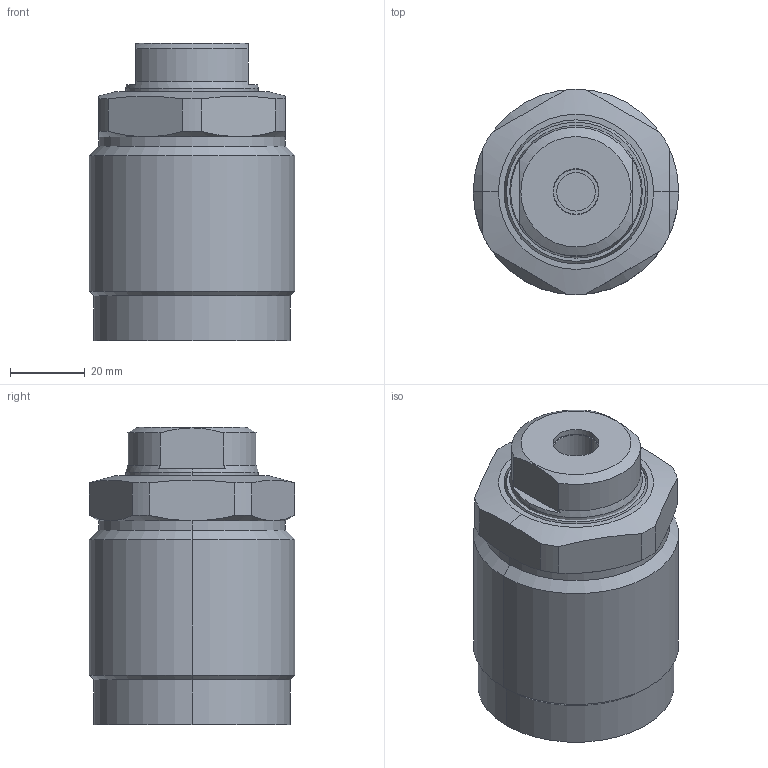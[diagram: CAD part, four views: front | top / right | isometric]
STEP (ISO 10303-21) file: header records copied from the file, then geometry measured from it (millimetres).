
FILE_DESCRIPTION((' '),'2;1');
FILE_NAME( 'TGP55-AM.x_t.stp', '2025-02-10T16:03:57', (' '), ('--- Datakit www.datakit.com---'), ' Datakit CrossCadWare V2024.1 Dec 21 2023', 'Mastercam 2025', ' ');
FILE_SCHEMA(('AUTOMOTIVE_DESIGN { 1 0 10303 214 1 1 1 1 }'));
Length unit declared in the file: millimetre
Products named in the file (1): TGP55-AM
Bounding box: 55 x 55 x 79.5 mm (x, y, z)
Volume: 176904.5 mm3; surface area: 23123.8 mm2
Topology: 2 solids, 2 shells, 81 faces, 186 edges, 115 vertices
Faces by surface type: cylinder 34, cone 22, plane 21, torus 4
Entity records: 2436 total; most frequent: CARTESIAN_POINT 561, DIRECTION 416, ORIENTED_EDGE 368, EDGE_CURVE 184, AXIS2_PLACEMENT_3D 178, VERTEX_POINT 115, CIRCLE 96, EDGE_LOOP 89
